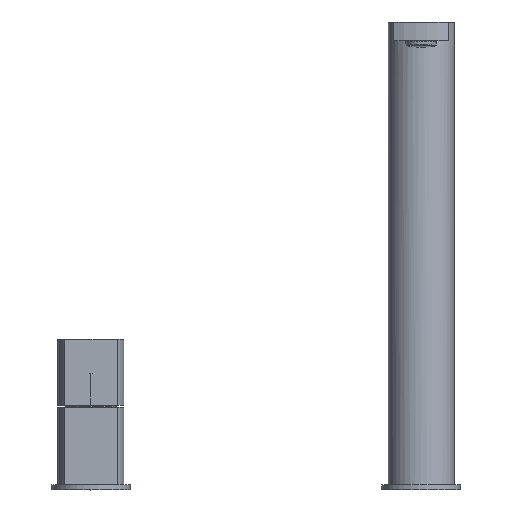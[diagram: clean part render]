
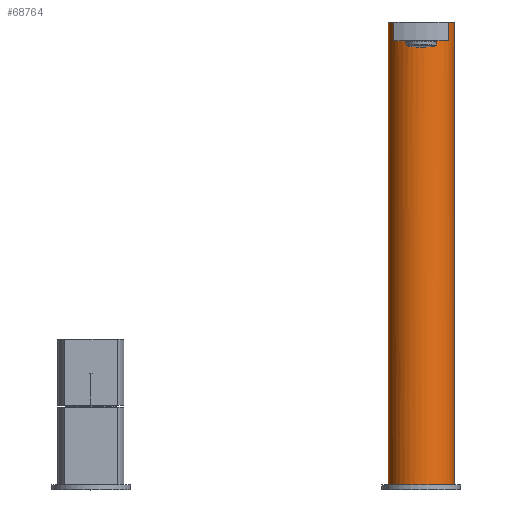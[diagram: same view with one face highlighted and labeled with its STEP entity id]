
A CAD part, top view. The second image highlights one B-rep face of the part: STEP entity #68764.
In plain terms, the highlighted cylindrical face has radius 20 mm (diameter 40 mm), a partial arc.
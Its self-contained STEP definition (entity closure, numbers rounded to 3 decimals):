
#15797=CARTESIAN_POINT('',(200.,269.,0.));
#15798=DIRECTION('',(0.,-1.,0.));
#15799=DIRECTION('',(0.8,0.,0.6));
#15800=AXIS2_PLACEMENT_3D('',#15797,#15798,#15799);
#16021=CARTESIAN_POINT('',(200.,280.,0.));
#16022=DIRECTION('',(0.,1.,0.));
#16023=DIRECTION('',(0.803,0.,0.597));
#16024=AXIS2_PLACEMENT_3D('',#16021,#16022,#16023);
#16049=CARTESIAN_POINT('',(200.,280.,0.));
#16050=DIRECTION('',(0.,1.,0.));
#16051=DIRECTION('',(-1.,0.,0.));
#16052=AXIS2_PLACEMENT_3D('',#16049,#16050,#16051);
#16087=CARTESIAN_POINT('',(200.,0.,0.));
#16088=DIRECTION('',(0.,1.,0.));
#16089=DIRECTION('',(-1.,0.,0.));
#16090=AXIS2_PLACEMENT_3D('',#16087,#16088,#16089);
#16092=DIRECTION('',(0.,1.,0.));
#16093=VECTOR('',#16092,280.);
#16094=CARTESIAN_POINT('',(180.,0.,0.));
#16095=LINE('',#16094,#16093);
#16096=DIRECTION('',(0.,1.,0.));
#16097=VECTOR('',#16096,11.);
#16098=CARTESIAN_POINT('',(183.95,269.,11.933));
#16099=LINE('',#16098,#16097);
#16100=DIRECTION('',(0.,-1.,0.));
#16101=VECTOR('',#16100,11.);
#16102=CARTESIAN_POINT('',(216.05,280.,11.933));
#16103=LINE('',#16102,#16101);
#16104=DIRECTION('',(0.,1.,0.));
#16105=VECTOR('',#16104,280.);
#16106=CARTESIAN_POINT('',(220.,0.,0.));
#16107=LINE('',#16106,#16105);
#16116=CARTESIAN_POINT('',(200.,269.,0.));
#16117=DIRECTION('',(0.,1.,0.));
#16118=DIRECTION('',(-0.803,0.,0.597));
#16119=AXIS2_PLACEMENT_3D('',#16116,#16117,#16118);
#16139=CARTESIAN_POINT('',(200.,269.,0.));
#16140=DIRECTION('',(0.,1.,0.));
#16141=DIRECTION('',(0.8,0.,0.6));
#16142=AXIS2_PLACEMENT_3D('',#16139,#16140,#16141);
#49425=CARTESIAN_POINT('',(183.95,280.,11.933));
#49427=VERTEX_POINT('',#49425);
#49430=CARTESIAN_POINT('',(216.05,280.,11.933));
#49432=VERTEX_POINT('',#49430);
#49433=CARTESIAN_POINT('',(183.95,269.,11.933));
#49435=VERTEX_POINT('',#49433);
#49437=CARTESIAN_POINT('',(216.05,269.,11.933));
#49439=VERTEX_POINT('',#49437);
#49441=CARTESIAN_POINT('',(220.,280.,0.));
#49442=CARTESIAN_POINT('',(180.,280.,0.));
#49443=VERTEX_POINT('',#49441);
#49444=VERTEX_POINT('',#49442);
#49471=CARTESIAN_POINT('',(184.,269.,12.));
#49473=VERTEX_POINT('',#49471);
#49475=CARTESIAN_POINT('',(216.,269.,12.));
#49477=VERTEX_POINT('',#49475);
#56680=CARTESIAN_POINT('',(220.,0.,0.));
#56681=CARTESIAN_POINT('',(180.,0.,0.));
#56682=VERTEX_POINT('',#56680);
#56683=VERTEX_POINT('',#56681);
#68743=CARTESIAN_POINT('',(200.,0.,0.));
#68744=DIRECTION('',(0.,1.,0.));
#68745=DIRECTION('',(1.,0.,0.));
#68746=AXIS2_PLACEMENT_3D('',#68743,#68744,#68745);
#68747=CYLINDRICAL_SURFACE('',#68746,20.);
#68748=ORIENTED_EDGE('',*,*,#68700,.F.);
#68749=ORIENTED_EDGE('',*,*,#68683,.T.);
#68750=ORIENTED_EDGE('',*,*,#68668,.T.);
#68752=ORIENTED_EDGE('',*,*,#68751,.F.);
#68754=ORIENTED_EDGE('',*,*,#68753,.T.);
#68755=ORIENTED_EDGE('',*,*,#68324,.F.);
#68757=ORIENTED_EDGE('',*,*,#68756,.T.);
#68759=ORIENTED_EDGE('',*,*,#68758,.F.);
#68760=ORIENTED_EDGE('',*,*,#68659,.T.);
#68761=ORIENTED_EDGE('',*,*,#68680,.F.);
#68762=EDGE_LOOP('',(#68748,#68749,#68750,#68752,#68754,#68755,#68757,#68759,
#68760,#68761));
#68763=FACE_OUTER_BOUND('',#68762,.F.);
#68764=ADVANCED_FACE('',(#68763),#68747,.T.);
#15801=CIRCLE('',#15800,20.);
#16025=CIRCLE('',#16024,20.);
#16053=CIRCLE('',#16052,20.);
#16091=CIRCLE('',#16090,20.);
#16120=CIRCLE('',#16119,20.);
#16143=CIRCLE('',#16142,20.);
#68324=EDGE_CURVE('',#49477,#49473,#15801,.T.);
#68659=EDGE_CURVE('',#49432,#49443,#16025,.T.);
#68668=EDGE_CURVE('',#49444,#49427,#16053,.T.);
#68680=EDGE_CURVE('',#56682,#49443,#16107,.T.);
#68683=EDGE_CURVE('',#56683,#49444,#16095,.T.);
#68700=EDGE_CURVE('',#56683,#56682,#16091,.T.);
#68751=EDGE_CURVE('',#49435,#49427,#16099,.T.);
#68753=EDGE_CURVE('',#49435,#49473,#16120,.T.);
#68756=EDGE_CURVE('',#49477,#49439,#16143,.T.);
#68758=EDGE_CURVE('',#49432,#49439,#16103,.T.);
